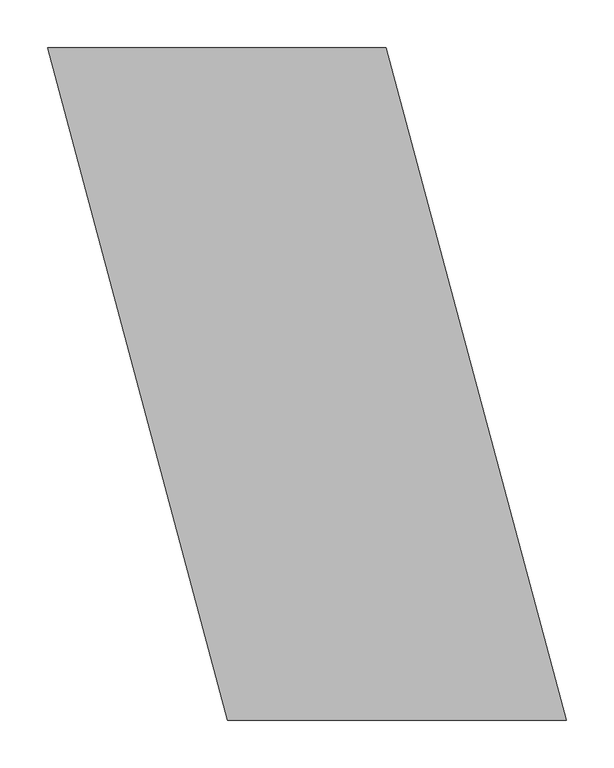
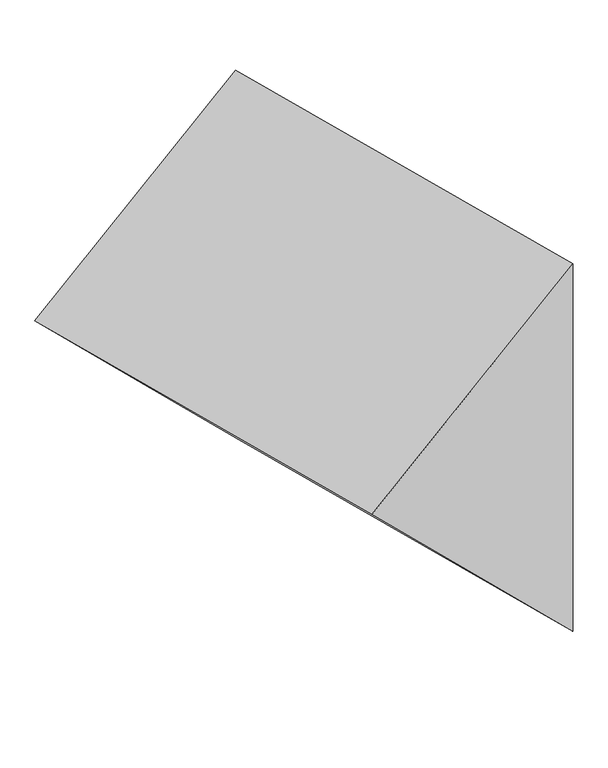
"""IFC4 building model written with IfcOpenShell, lengths in millimetres: proxy geometry, FOUNDATION^TABLE 5_60x180 RT END BASE-BACK PANEL."""

from ifc_helpers import new_model, si_unit, origin, place, context, project, spatial, faceted_brep, source, transform, mapped, element, save


def generic_models_edd9a5f6(model_context):
    return source(origin(), model_context, "Body", "Brep", [
        faceted_brep([(3814.7139883, -704.85, -419.1), (3459.717786, -704.85, -762.0), (3814.7139883, -704.85, -1104.9), (3625.85, 0.0, -1104.9), (3625.85, 0.0, -419.1), (3270.8537977, 0.0, -762.0)], [[[0, 1, 2]], [[3, 4, 0, 2]], [[4, 3, 5]], [[5, 3, 2, 1]], [[0, 4, 5, 1]]]),
    ])


if __name__ == "__main__":
    model = new_model("IFC4")
    model_context = context("Model", 3, world=origin())
    ifc_project = project(units=[si_unit("LENGTHUNIT", "METRE", prefix="MILLI")], contexts=[model_context])
    site = spatial("IfcSite", under=ifc_project)
    building = spatial("IfcBuilding", under=site)
    placement = place(None, origin())
    generic_models_shape = generic_models_edd9a5f6(model_context)
    element("IfcBuildingElementProxy", 1, Name="FOUNDATION^TABLE 5_60x180 RT END BASE-BACK PANEL", ObjectType="FOUNDATION^TABLE 5_60x180 RT END BASE-BACK PANEL", at=placement, inside=building, context=model_context, shape_type="MappedRepresentation", body=[
        mapped(generic_models_shape, transform((0.0, 0.0, 0.0), x_axis=(1.0, 0.0, 0.0), y_axis=(0.0, 1.0, 0.0), z_axis=(0.0, 0.0, 1.0))),
    ])
    save(model, "model.ifc")
